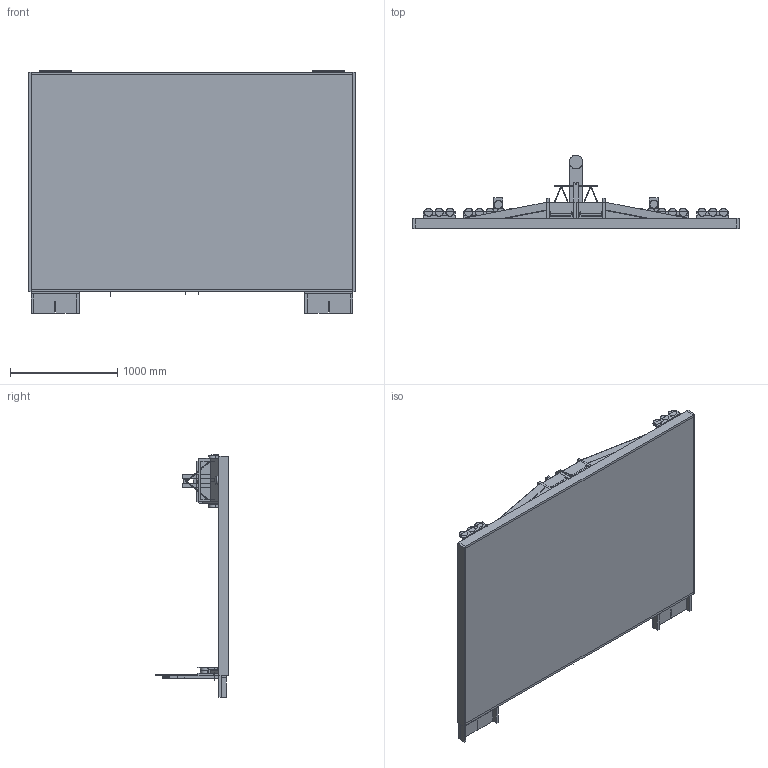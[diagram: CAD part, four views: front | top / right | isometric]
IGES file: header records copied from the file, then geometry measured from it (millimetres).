
Global section: file name: TableElements2019 jrv63; native system: unknown; preprocessor: unknown; author: grinwald; organization: unknown; date: 20181010.075206; units: millimetre
Bounding box: 3044 x 685.04 x 2257 mm (x, y, z)
Volume: 208047208.1 mm3; surface area: 37183304.9 mm2
Topology: 158 solids, 158 shells, 1007 faces, 2127 edges, 1442 vertices
Faces by surface type: bspline 1007
